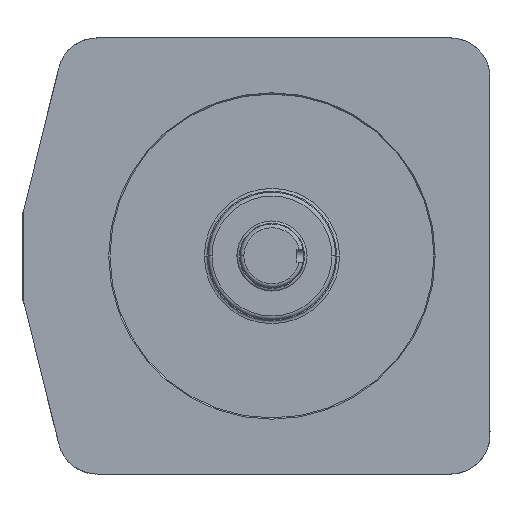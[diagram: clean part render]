
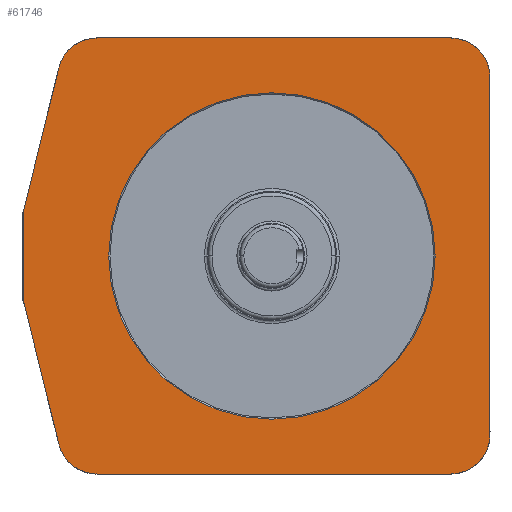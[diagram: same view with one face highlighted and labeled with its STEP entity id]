
A CAD part, top view. The second image highlights one B-rep face of the part: STEP entity #61746.
In plain terms, the highlighted planar face has unit normal (0, 0, 1).
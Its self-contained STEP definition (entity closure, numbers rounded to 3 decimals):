
#50967=CARTESIAN_POINT('',(6036.189,-1525.564,310.896));
#50968=VERTEX_POINT('',#50967);
#50994=CARTESIAN_POINT('',(6035.611,-1530.335,310.896));
#50995=VERTEX_POINT('',#50994);
#51002=CARTESIAN_POINT('',(6036.189,-1525.564,310.896));
#51003=VERTEX_POINT('',#51002);
#51004=CARTESIAN_POINT('',(6055.611,-1530.335,310.896));
#51005=DIRECTION('',(0.,0.,-1.));
#51006=DIRECTION('',(-1.,0.,0.));
#51007=AXIS2_PLACEMENT_3D('',#51004,#51005,#51006);
#51008=CIRCLE('',#51007,20.);
#51009=EDGE_CURVE('',#50995,#51003,#51008,.T.);
#51011=CARTESIAN_POINT('',(6036.189,-1525.564,310.896));
#51012=DIRECTION('',(0.239,0.971,0.));
#51013=VECTOR('',#51012,0.001);
#51014=LINE('',#51011,#51013);
#51015=EDGE_CURVE('',#51003,#50968,#51014,.T.);
#51027=CARTESIAN_POINT('',(6093.255,-1392.209,310.896));
#51028=VERTEX_POINT('',#51027);
#51085=CARTESIAN_POINT('',(6063.15,-1415.813,310.896));
#51086=VERTEX_POINT('',#51085);
#51093=CARTESIAN_POINT('',(6093.255,-1423.209,310.896));
#51094=DIRECTION('',(0.,0.,-1.));
#51095=DIRECTION('',(-0.971,0.239,0.));
#51096=AXIS2_PLACEMENT_3D('',#51093,#51094,#51095);
#51097=CIRCLE('',#51096,31.);
#51098=EDGE_CURVE('',#51086,#51028,#51097,.T.);
#51110=CARTESIAN_POINT('',(6370.338,-1392.209,310.896));
#51111=VERTEX_POINT('',#51110);
#51161=CARTESIAN_POINT('',(6093.255,-1392.209,310.896));
#51162=DIRECTION('',(1.,0.,-0.));
#51163=VECTOR('',#51162,277.084);
#51164=LINE('',#51161,#51163);
#51165=EDGE_CURVE('',#51028,#51111,#51164,.T.);
#51175=CARTESIAN_POINT('',(6401.338,-1423.209,310.896));
#51176=VERTEX_POINT('',#51175);
#51271=CARTESIAN_POINT('',(6370.338,-1423.209,310.896));
#51272=DIRECTION('',(0.,0.,-1.));
#51273=DIRECTION('',(0.,1.,0.));
#51274=AXIS2_PLACEMENT_3D('',#51271,#51272,#51273);
#51275=CIRCLE('',#51274,31.);
#51276=EDGE_CURVE('',#51111,#51176,#51275,.T.);
#51286=CARTESIAN_POINT('',(6401.338,-1703.209,310.896));
#51287=VERTEX_POINT('',#51286);
#51288=CARTESIAN_POINT('',(6401.338,-1423.209,310.896));
#51289=DIRECTION('',(-0.,-1.,0.));
#51290=VECTOR('',#51289,280.);
#51291=LINE('',#51288,#51290);
#51292=EDGE_CURVE('',#51176,#51287,#51291,.T.);
#51450=CARTESIAN_POINT('',(6370.338,-1734.209,310.896));
#51451=VERTEX_POINT('',#51450);
#51543=CARTESIAN_POINT('',(6370.338,-1703.209,310.896));
#51544=DIRECTION('',(0.,0.,-1.));
#51545=DIRECTION('',(1.,0.,0.));
#51546=AXIS2_PLACEMENT_3D('',#51543,#51544,#51545);
#51547=CIRCLE('',#51546,31.);
#51548=EDGE_CURVE('',#51287,#51451,#51547,.T.);
#51560=CARTESIAN_POINT('',(6063.143,-1710.604,310.896));
#51561=VERTEX_POINT('',#51560);
#51625=CARTESIAN_POINT('',(6093.248,-1734.209,310.896));
#51626=VERTEX_POINT('',#51625);
#51633=CARTESIAN_POINT('',(6093.248,-1703.209,310.896));
#51634=DIRECTION('',(0.,0.,-1.));
#51635=DIRECTION('',(0.,-1.,0.));
#51636=AXIS2_PLACEMENT_3D('',#51633,#51634,#51635);
#51637=CIRCLE('',#51636,31.);
#51638=EDGE_CURVE('',#51626,#51561,#51637,.T.);
#51650=CARTESIAN_POINT('',(6035.611,-1596.109,310.896));
#51651=VERTEX_POINT('',#51650);
#51714=CARTESIAN_POINT('',(6036.189,-1600.88,310.896));
#51715=VERTEX_POINT('',#51714);
#51722=CARTESIAN_POINT('',(6055.611,-1596.109,310.896));
#51723=DIRECTION('',(-0.,0.,-1.));
#51724=DIRECTION('',(-0.971,-0.239,0.));
#51725=AXIS2_PLACEMENT_3D('',#51722,#51723,#51724);
#51726=CIRCLE('',#51725,20.);
#51727=EDGE_CURVE('',#51715,#51651,#51726,.T.);
#52578=CARTESIAN_POINT('',(6036.189,-1525.564,310.896));
#52579=DIRECTION('',(0.239,0.971,0.));
#52580=VECTOR('',#52579,113.013);
#52581=LINE('',#52578,#52580);
#52582=EDGE_CURVE('',#50968,#51086,#52581,.T.);
#54029=CARTESIAN_POINT('',(6370.338,-1734.209,310.896));
#54030=DIRECTION('',(-1.,0.,0.));
#54031=VECTOR('',#54030,277.09);
#54032=LINE('',#54029,#54031);
#54033=EDGE_CURVE('',#51451,#51626,#54032,.T.);
#54470=CARTESIAN_POINT('',(6063.143,-1710.604,310.896));
#54471=DIRECTION('',(-0.239,0.971,0.));
#54472=VECTOR('',#54471,112.987);
#54473=LINE('',#54470,#54472);
#54474=EDGE_CURVE('',#51561,#51715,#54473,.T.);
#54594=CARTESIAN_POINT('',(6035.611,-1596.109,310.896));
#54595=DIRECTION('',(0.,1.,0.));
#54596=VECTOR('',#54595,65.773);
#54597=LINE('',#54594,#54596);
#54598=EDGE_CURVE('',#51651,#50995,#54597,.T.);
#61706=CARTESIAN_POINT('',(6370.338,-1703.209,310.896));
#61707=DIRECTION('',(0.,0.,1.));
#61708=DIRECTION('',(-1.,0.,0.));
#61709=AXIS2_PLACEMENT_3D('',#61706,#61707,#61708);
#61710=PLANE('',#61709);
#61711=ORIENTED_EDGE('',*,*,#51292,.F.);
#61712=ORIENTED_EDGE('',*,*,#51276,.F.);
#61713=ORIENTED_EDGE('',*,*,#51165,.F.);
#61714=ORIENTED_EDGE('',*,*,#51098,.F.);
#61715=ORIENTED_EDGE('',*,*,#52582,.F.);
#61716=ORIENTED_EDGE('',*,*,#51015,.F.);
#61717=ORIENTED_EDGE('',*,*,#51009,.F.);
#61718=ORIENTED_EDGE('',*,*,#54598,.F.);
#61719=ORIENTED_EDGE('',*,*,#51727,.F.);
#61720=ORIENTED_EDGE('',*,*,#54474,.F.);
#61721=ORIENTED_EDGE('',*,*,#51638,.F.);
#61722=ORIENTED_EDGE('',*,*,#54033,.F.);
#61723=ORIENTED_EDGE('',*,*,#51548,.F.);
#61724=EDGE_LOOP('',(#61711,#61712,#61713,#61714,#61715,#61716,#61717,#61718,#61719,#61720,#61721,#61722,#61723));
#61725=FACE_BOUND('',#61724,.T.);
#61726=CARTESIAN_POINT('',(6358.338,-1563.222,310.896));
#61727=VERTEX_POINT('',#61726);
#61728=CARTESIAN_POINT('',(6102.338,-1563.222,310.896));
#61729=VERTEX_POINT('',#61728);
#61730=CARTESIAN_POINT('',(6230.338,-1563.222,310.896));
#61731=DIRECTION('',(0.,0.,1.));
#61732=DIRECTION('',(-1.,0.,0.));
#61733=AXIS2_PLACEMENT_3D('',#61730,#61731,#61732);
#61734=CIRCLE('',#61733,128.);
#61735=EDGE_CURVE('',#61727,#61729,#61734,.T.);
#61736=ORIENTED_EDGE('',*,*,#61735,.F.);
#61737=CARTESIAN_POINT('',(6230.338,-1563.222,310.896));
#61738=DIRECTION('',(0.,0.,1.));
#61739=DIRECTION('',(-1.,0.,0.));
#61740=AXIS2_PLACEMENT_3D('',#61737,#61738,#61739);
#61741=CIRCLE('',#61740,128.);
#61742=EDGE_CURVE('',#61729,#61727,#61741,.T.);
#61743=ORIENTED_EDGE('',*,*,#61742,.F.);
#61744=EDGE_LOOP('',(#61736,#61743));
#61745=FACE_BOUND('',#61744,.T.);
#61746=ADVANCED_FACE('',(#61725,#61745),#61710,.T.);
